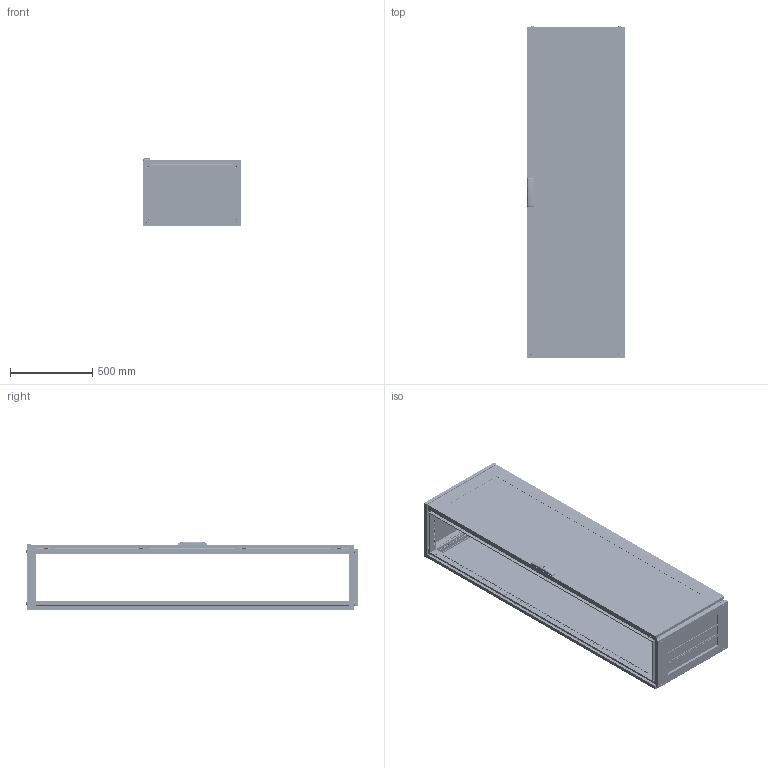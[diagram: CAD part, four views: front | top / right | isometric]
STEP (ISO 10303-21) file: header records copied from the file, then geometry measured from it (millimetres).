
FILE_DESCRIPTION (( 'STEP AP203' ), '1' );
FILE_NAME ('R5CQEN2064AX.STEP', '2025-05-07T12:05:19', ( '' ), ( '' ), 'SwSTEP 2.0', 'SolidWorks 2022', '' );
FILE_SCHEMA (( 'CONFIG_CONTROL_DESIGN' ));
Length unit declared in the file: millimetre
Products named in the file (65): RB.2457.00.00.0 СБ simple_-12; R5NKTB - Assem simple_H=2000 R5NKTB64; RB.0528.00.01.0 simple_-05; PF 7x14 CRE simple_2000x0600; R5NCRE-Assem simple_R5NCRE2060; RB.2968.00.00.0 simple; RB.2528.00.00.0 simple_-05; RB.2969.00.01.0 simple; RB.0528.04.00.0 СБ simple; Glass CPTE_2000x0600; RB.0528.04.01.0 simple; M6 DIN 985 cl.6,0 Zinc_straight; RB.2499.01.00.0 СБ simple_-11; RB.0562.01.00.0 СБ simple_-15; R5NCPTE - Assem simple_R5NCPTE2060; R5CQEN2064AX; RB.0562.01.01.0 simple_-15; RB.1867.01.01.0 simple_-08; M8x12 AC00C476 cl.8,8 Zinc_stright; TPA.08.0139.00.03.0; RB.2456.00.00.0 simple; RB.2499.00.00.0 СБ simple_-12; RB.2052.01.00.0 СБ simple_-23; ATOS Traction guide ILY03.35; Pin 4x16 DIN 7 AISI 303 (A1) simple; RB.2755.00.00.0 СБ simple_-12; AC00C446-R; TPA.08.0083.00.00.0 simple; Glue CPTE simple_2000x0600; RB.2696.00.00.0 simple; RB.2052.00.00.0 СБ simple_-23; RB.2680.00.02.0 simple; M6x10 DIN 7500 M Torx cl.5.8 Zinc_straight; M12x16 ISO 7380-1 HX cl.4,8 Zinc_straight; RB.2680.00.00.0 СБ simple; RB.1867.01.00.0 СБ simple_-54; RB.2172.00.00.1 simple; RB.1728.00.00.0 simple_-01; 7 DIN 6799 Zinc; PF 7,5x15 CPE simple_2000x0600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
Assembly tree (173 placements, depth 5):
  R5CQEN2064AX
    R5NCPTE - Assem simple_R5NCPTE2060
      RB.0562.00.00.0 СБ simple_-15
        RB.0562.01.00.0 СБ simple_-15
          RB.0562.01.01.0 simple_-15
          М6х12 A5100231_straight  x7
          RB.2702.00.00.0 simple  x4
          PF 7,5x15 CPE simple_2000x0600
          Glass CPTE_2000x0600
          Glue CPTE simple_2000x0600
        Square cap 20x20 simple  x2
        M6x15 Erickson cl.4,8 Zinc  x2
        RB.0528.00.01.0 simple_-05  x2
        ATOS Traction guide ILY03.35  x4
        RB.2357.00.00.0 simple_-03
        RB.2680.00.00.0 СБ simple
          TPA.08.0139.00.01.0 simple
          RB.2680.00.01.0 simple
          RB.2680.00.02.0 simple  x2
        TPA.08.0139.00.03.0  x2
        M6 DIN 985 cl.6,0 Zinc_straight  x4
        4,0x16 F Torx Zinc (ART 88200)_thread  x2
        RB.0528.04.00.0 СБ simple  x2
          RB.0528.04.01.0 simple
          Pressing stud FH-M6-12_M6x12mm
      M6x10 DIN 912 HX cl.8,8 Zinc_straight  x8
      4.8x13 DIN 7981 PH Zinc_straight
      7 DIN 6799 Zinc simple  x4
      RB.2968.00.00.0 simple  x4
      RB.2969.00.00.0 СБ simple  x4
        RB.2969.00.01.0 simple
        Pin 4x16 DIN 7 AISI 303 (A1) simple
        M6 MGR-MKO-0625 simple_Thread
      AC00C446-R
      RB.2696.00.00.0 simple  x4
      7 DIN 6799 Zinc  x4
    R5NCRE-Assem simple_R5NCRE2060
      RB.2052.00.00.0 СБ simple_-23
        RB.2052.01.00.0 СБ simple_-23
          RB.0054.01.01.0 simple_-23
          М6х12 A5100231_straight  x4
        PF 7x14 CRE simple_2000x0600
      RB.2172.00.00.1 simple  x8
      M6x10 DIN 7500 E HX cl.5.8 Zinc_straight  x8
      M6x10 DIN 7500 M Torx cl.5.8 Zinc_straight  x8
    R5NKMN - Assem simple_R5NKMN20 (600х400)
      RB.2528.00.00.0 simple_-05  x4
    R5NKTB - Assem simple_H=2000 R5NKTB64
      RB.2499.00.00.0 СБ simple_-12
        RB.2499.01.00.0 СБ simple_-11
          RB.1633.00.01.0 simple_-02  x2
          RB.1633.00.02.0 simple_default  x2
          PF 5x10 KTB simple_600x400
        RB.2457.00.00.0 СБ simple_-12
          RB.2455.00.00.0 simple_-02  x2
          RB.2456.00.00.0 simple  x2
          TPA.08.0084.00.00.0 simple  x2
          TPA.08.0083.00.00.0 simple  x2
          M8x12 AC00C476 cl.8,8 Zinc_stright  x4
        RB.1728.00.00.0 simple_-01  x3
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Bounding box: 600 x 2013.3 x 414.79 mm (x, y, z)
Volume: 14116942.2 mm3; surface area: 12101643.2 mm2
Topology: 176 solids, 192 shells, 21341 faces, 60319 edges, 39715 vertices
Faces by surface type: plane 12059, cylinder 7741, cone 704, bspline 435, torus 368, sphere 34
Entity records: 213717 total; most frequent: CARTESIAN_POINT 53571, ORIENTED_EDGE 31690, DIRECTION 30103, EDGE_CURVE 15871, VERTEX_POINT 10506, AXIS2_PLACEMENT_3D 10077, VECTOR 9949, LINE 9949
